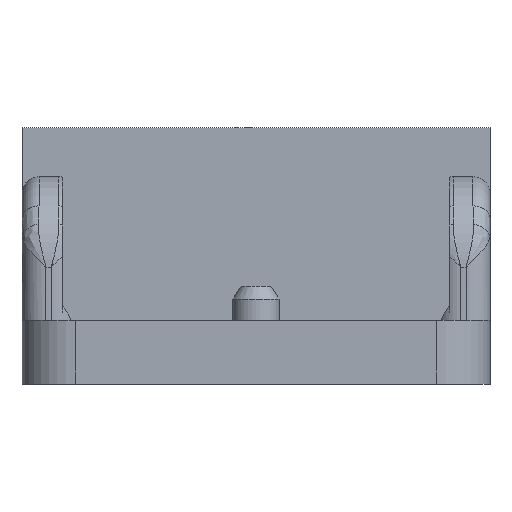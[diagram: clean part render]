
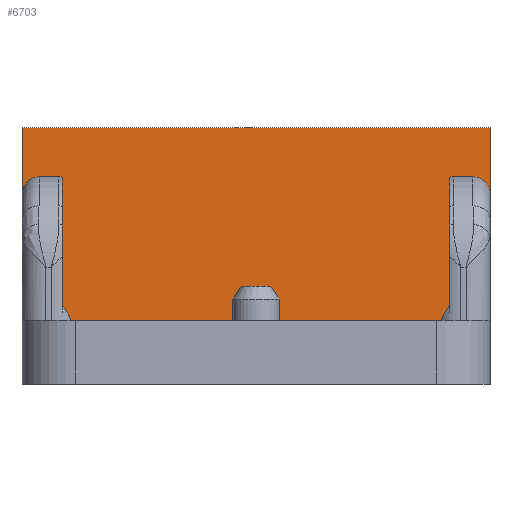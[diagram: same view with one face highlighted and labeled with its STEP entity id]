
A CAD part, front view. The second image highlights one B-rep face of the part: STEP entity #6703.
In plain terms, the highlighted planar face has unit normal (0, -1, 0).
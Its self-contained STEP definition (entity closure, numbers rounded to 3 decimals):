
#1409 = VERTEX_POINT('',#1410);
#1410 = CARTESIAN_POINT('',(-203.25,-85.57,-7.25));
#1504 = VERTEX_POINT('',#1505);
#1505 = CARTESIAN_POINT('',(-181.25,-85.57,-7.25));
#3316 = EDGE_CURVE('',#1504,#1409,#3317,.T.);
#3317 = LINE('',#3318,#3319);
#3318 = CARTESIAN_POINT('',(-203.25,-85.57,-7.25));
#3319 = VECTOR('',#3320,1.);
#3320 = DIRECTION('',(-1.,-0.,0.));
#6703 = ADVANCED_FACE('',(#6704),#6729,.F.);
#6704 = FACE_BOUND('',#6705,.F.);
#6705 = EDGE_LOOP('',(#6706,#6707,#6715,#6723));
#6706 = ORIENTED_EDGE('',*,*,#3316,.T.);
#6707 = ORIENTED_EDGE('',*,*,#6708,.T.);
#6708 = EDGE_CURVE('',#1409,#6709,#6711,.T.);
#6709 = VERTEX_POINT('',#6710);
#6710 = CARTESIAN_POINT('',(-203.25,-85.57,1.8));
#6711 = LINE('',#6712,#6713);
#6712 = CARTESIAN_POINT('',(-203.25,-85.57,-10.25));
#6713 = VECTOR('',#6714,1.);
#6714 = DIRECTION('',(0.,0.,1.));
#6715 = ORIENTED_EDGE('',*,*,#6716,.T.);
#6716 = EDGE_CURVE('',#6709,#6717,#6719,.T.);
#6717 = VERTEX_POINT('',#6718);
#6718 = CARTESIAN_POINT('',(-181.25,-85.57,1.8));
#6719 = LINE('',#6720,#6721);
#6720 = CARTESIAN_POINT('',(-203.25,-85.57,1.8));
#6721 = VECTOR('',#6722,1.);
#6722 = DIRECTION('',(1.,0.,-0.));
#6723 = ORIENTED_EDGE('',*,*,#6724,.F.);
#6724 = EDGE_CURVE('',#1504,#6717,#6725,.T.);
#6725 = LINE('',#6726,#6727);
#6726 = CARTESIAN_POINT('',(-181.25,-85.57,-10.25));
#6727 = VECTOR('',#6728,1.);
#6728 = DIRECTION('',(0.,0.,1.));
#6729 = PLANE('',#6730);
#6730 = AXIS2_PLACEMENT_3D('',#6731,#6732,#6733);
#6731 = CARTESIAN_POINT('',(-203.25,-85.57,-10.25));
#6732 = DIRECTION('',(-0.,1.,0.));
#6733 = DIRECTION('',(0.,0.,1.));
